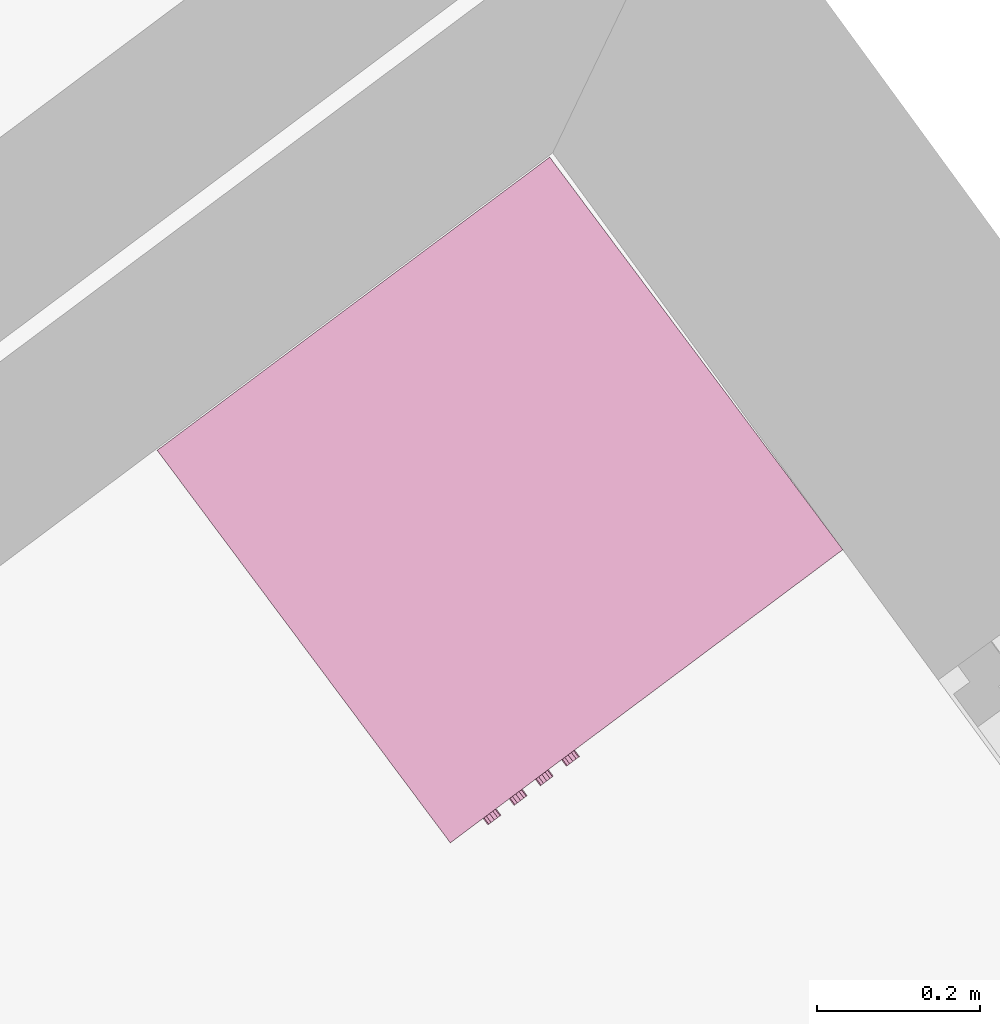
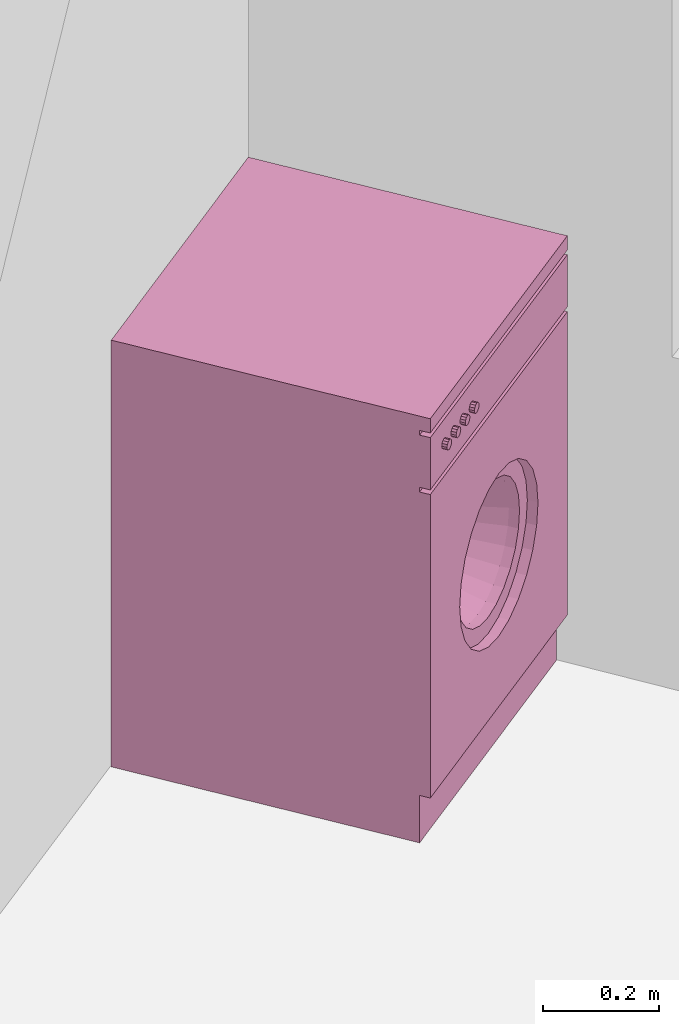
# One storey, part 152 of 195: 1 furnishing.
"""IFC2X3 building model written with IfcOpenShell, lengths in metres."""

from ifc_helpers import new_model, entity, si_unit, converted_unit, derived_unit, money_unit, direction, frame, origin_with_axes, place, context, subcontext, project, spatial, open_shell, faceted_brep, surface_model, source, transform, mapped, type_object, element, save


model = new_model("IFC2X3")

# Units and contexts
model_context = context("Model", 3, precision=1e-05, world=origin_with_axes(), true_north=direction((0.0, 1.0)))
body_context = subcontext(model_context, "Body", "Model", "MODEL_VIEW")
ifc_project = project(units=[si_unit("LENGTHUNIT", "METRE"), si_unit("AREAUNIT", "SQUARE_METRE"), si_unit("VOLUMEUNIT", "CUBIC_METRE"), converted_unit("PLANEANGLEUNIT", "DEGREE", entity("IfcPlaneAngleMeasure", 0.0174532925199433), si_unit("PLANEANGLEUNIT", "RADIAN"), dimensions=[0, 0, 0, 0, 0, 0, 0]), money_unit("CHF"), converted_unit("TIMEUNIT", "Year", entity("IfcTimeMeasure", 31557600.0), si_unit("TIMEUNIT", "SECOND"), dimensions=[0, 0, 1, 0, 0, 0, 0]), si_unit("MASSUNIT", "GRAM", prefix="KILO"), si_unit("THERMODYNAMICTEMPERATUREUNIT", "DEGREE_CELSIUS"), si_unit("LUMINOUSINTENSITYUNIT", "LUMEN"), si_unit("ENERGYUNIT", "JOULE", prefix="MEGA"), derived_unit("THERMALCONDUCTANCEUNIT", [(si_unit("POWERUNIT", "WATT"), 1), (si_unit("LENGTHUNIT", "METRE"), -1), (si_unit("THERMODYNAMICTEMPERATUREUNIT", "KELVIN"), -1)]), derived_unit("SPECIFICHEATCAPACITYUNIT", [(si_unit("ENERGYUNIT", "JOULE"), 1), (si_unit("MASSUNIT", "GRAM", prefix="KILO"), -1), (si_unit("THERMODYNAMICTEMPERATUREUNIT", "KELVIN"), -1)]), derived_unit("MASSDENSITYUNIT", [(si_unit("MASSUNIT", "GRAM", prefix="KILO"), 1), (si_unit("VOLUMEUNIT", "CUBIC_METRE"), -1)])], contexts=[model_context])

# Site, building, storey
site_placement = place(None, origin_with_axes())
site = spatial("IfcSite", under=ifc_project, at=site_placement, Name="Site", CompositionType="ELEMENT")
building_placement = place(site_placement, origin_with_axes())
building = spatial("IfcBuilding", under=site, at=building_placement, Name="Bâtiment", CompositionType="ELEMENT")
storey_placement = place(building_placement, origin_with_axes())
storey = spatial("IfcBuildingStorey", under=building, at=storey_placement, Name="rdc", CompositionType="ELEMENT", Elevation=0.0)

# Furnishing
furnishing_element_type = type_object("IfcFurnishingElementType", Name="Machine à laver")
shared_shape = source(origin_with_axes(), body_context, "Body", "SurfaceModel", [
    faceted_brep([(0.0, 0.02, 0.1), (0.6, 0.02, 0.1), (0.6, 0.0, 0.1), (0.0, 0.0, 0.1), (0.0, 0.02000000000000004, 0.74), (0.6, 0.02000000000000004, 0.74), (0.4714285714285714, 0.02000000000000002, 0.42), (0.4655872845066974, 0.02000000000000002, 0.4643689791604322), (0.448461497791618, 0.02000000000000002, 0.5057142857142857), (0.4212183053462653, 0.02000000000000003, 0.5412183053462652), (0.3857142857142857, 0.02000000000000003, 0.568461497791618), (0.3443689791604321, 0.02000000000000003, 0.5855872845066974), (0.3, 0.02000000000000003, 0.5914285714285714), (0.2556310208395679, 0.02000000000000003, 0.5855872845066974), (0.2142857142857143, 0.02000000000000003, 0.5684614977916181), (0.1787816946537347, 0.02000000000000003, 0.5412183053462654), (0.1515385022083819, 0.02000000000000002, 0.5057142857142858), (0.1344127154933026, 0.02000000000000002, 0.4643689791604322), (0.1285714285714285, 0.02000000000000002, 0.42), (0.1344127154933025, 0.02000000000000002, 0.3756310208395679), (0.1515385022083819, 0.02000000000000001, 0.3342857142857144), (0.1787816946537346, 0.02000000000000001, 0.2987816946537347), (0.2142857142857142, 0.02000000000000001, 0.2715385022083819), (0.2556310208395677, 0.02000000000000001, 0.2544127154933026), (0.2999999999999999, 0.02000000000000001, 0.2485714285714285), (0.344368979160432, 0.02000000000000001, 0.2544127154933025), (0.3857142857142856, 0.02000000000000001, 0.2715385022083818), (0.4212183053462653, 0.02000000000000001, 0.2987816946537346), (0.448461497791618, 0.02000000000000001, 0.3342857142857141), (0.4655872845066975, 0.02000000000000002, 0.3756310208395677), (0.6, 0.0, 0.74), (0.0, 0.0, 0.74), (0.4714285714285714, 0.0, 0.42), (0.4655872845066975, 0.0, 0.3756310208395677), (0.448461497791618, 0.0, 0.3342857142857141), (0.4212183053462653, 0.0, 0.2987816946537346), (0.3857142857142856, 0.0, 0.2715385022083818), (0.344368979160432, 0.0, 0.2544127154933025), (0.2999999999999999, 0.0, 0.2485714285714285), (0.2556310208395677, 0.0, 0.2544127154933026), (0.2142857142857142, 0.0, 0.2715385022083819), (0.1787816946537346, 0.0, 0.2987816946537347), (0.1515385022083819, 0.0, 0.3342857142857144), (0.1344127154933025, 0.0, 0.3756310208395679), (0.1285714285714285, 0.0, 0.42), (0.1344127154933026, 0.0, 0.4643689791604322), (0.1515385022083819, 0.0, 0.5057142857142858), (0.1787816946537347, 0.0, 0.5412183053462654), (0.2142857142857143, 0.0, 0.5684614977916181), (0.2556310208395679, 0.0, 0.5855872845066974), (0.3, 0.0, 0.5914285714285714), (0.3443689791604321, 0.0, 0.5855872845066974), (0.3857142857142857, 0.0, 0.568461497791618), (0.4212183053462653, 0.0, 0.5412183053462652), (0.448461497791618, 0.0, 0.5057142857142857), (0.4655872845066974, 0.0, 0.4643689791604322)], [[[0, 1, 2, 3]], [[0, 4, 5, 1], [6, 7, 8, 9, 10, 11, 12, 13, 14, 15, 16, 17, 18, 19, 20, 21, 22, 23, 24, 25, 26, 27, 28, 29]], [[1, 5, 30, 2]], [[3, 2, 30, 31], [32, 33, 34, 35, 36, 37, 38, 39, 40, 41, 42, 43, 44, 45, 46, 47, 48, 49, 50, 51, 52, 53, 54, 55]], [[4, 0, 3, 31]], [[5, 4, 31, 30]], [[7, 6, 32, 55]], [[8, 7, 55, 54]], [[9, 8, 54, 53]], [[10, 9, 53, 52]], [[11, 10, 52, 51]], [[12, 11, 51, 50]], [[13, 12, 50, 49]], [[14, 13, 49, 48]], [[15, 14, 48, 47]], [[16, 15, 47, 46]], [[17, 16, 46, 45]], [[18, 17, 45, 44]], [[19, 18, 44, 43]], [[20, 19, 43, 42]], [[21, 20, 42, 41]], [[22, 21, 41, 40]], [[23, 22, 40, 39]], [[24, 23, 39, 38]], [[25, 24, 38, 37]], [[26, 25, 37, 36]], [[27, 26, 36, 35]], [[28, 27, 35, 34]], [[29, 28, 34, 33]], [[6, 29, 33, 32]]]),
    faceted_brep([(0.4714285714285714, 0.04000000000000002, 0.42), (0.4655872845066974, 0.04000000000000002, 0.4643689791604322), (0.4655872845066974, 0.02000000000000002, 0.4643689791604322), (0.4714285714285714, 0.02000000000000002, 0.42), (0.4655872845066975, 0.04000000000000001, 0.3756310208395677), (0.448461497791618, 0.04000000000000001, 0.3342857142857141), (0.4212183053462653, 0.04000000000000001, 0.2987816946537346), (0.3857142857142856, 0.04000000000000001, 0.2715385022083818), (0.344368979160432, 0.04000000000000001, 0.2544127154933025), (0.2999999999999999, 0.04000000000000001, 0.2485714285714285), (0.2556310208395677, 0.04000000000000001, 0.2544127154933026), (0.2142857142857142, 0.04000000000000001, 0.2715385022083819), (0.1787816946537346, 0.04000000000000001, 0.2987816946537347), (0.1515385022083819, 0.04000000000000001, 0.3342857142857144), (0.1344127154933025, 0.04000000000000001, 0.3756310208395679), (0.1285714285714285, 0.04000000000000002, 0.42), (0.1344127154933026, 0.04000000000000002, 0.4643689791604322), (0.1515385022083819, 0.04000000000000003, 0.5057142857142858), (0.1787816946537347, 0.04000000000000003, 0.5412183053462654), (0.2142857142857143, 0.04000000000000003, 0.5684614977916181), (0.2556310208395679, 0.04000000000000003, 0.5855872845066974), (0.3, 0.04000000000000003, 0.5914285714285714), (0.3443689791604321, 0.04000000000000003, 0.5855872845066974), (0.3857142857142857, 0.04000000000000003, 0.568461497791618), (0.4212183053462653, 0.04000000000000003, 0.5412183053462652), (0.448461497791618, 0.04000000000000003, 0.5057142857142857), (0.4371428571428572, 0.04000000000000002, 0.42), (0.432469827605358, 0.04000000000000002, 0.4554951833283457), (0.4187691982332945, 0.04000000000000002, 0.4885714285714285), (0.3969746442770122, 0.04000000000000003, 0.5169746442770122), (0.3685714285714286, 0.04000000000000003, 0.5387691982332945), (0.3354951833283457, 0.04000000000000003, 0.552469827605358), (0.3, 0.04000000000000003, 0.5571428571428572), (0.2645048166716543, 0.04000000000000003, 0.552469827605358), (0.2314285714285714, 0.04000000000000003, 0.5387691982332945), (0.2030253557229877, 0.04000000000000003, 0.5169746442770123), (0.1812308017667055, 0.04000000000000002, 0.4885714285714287), (0.167530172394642, 0.04000000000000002, 0.4554951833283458), (0.1628571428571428, 0.04000000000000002, 0.42), (0.167530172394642, 0.04000000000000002, 0.3845048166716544), (0.1812308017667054, 0.04000000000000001, 0.3514285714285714), (0.2030253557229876, 0.04000000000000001, 0.3230253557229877), (0.2314285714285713, 0.04000000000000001, 0.3012308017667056), (0.2645048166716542, 0.04000000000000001, 0.287530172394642), (0.2999999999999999, 0.04000000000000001, 0.2828571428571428), (0.3354951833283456, 0.04000000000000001, 0.287530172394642), (0.3685714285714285, 0.04000000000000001, 0.3012308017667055), (0.3969746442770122, 0.04000000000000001, 0.3230253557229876), (0.4187691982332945, 0.04000000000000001, 0.3514285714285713), (0.432469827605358, 0.04000000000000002, 0.3845048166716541), (0.448461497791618, 0.02000000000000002, 0.5057142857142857), (0.4212183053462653, 0.02000000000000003, 0.5412183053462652), (0.3857142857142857, 0.02000000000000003, 0.568461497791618), (0.3443689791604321, 0.02000000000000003, 0.5855872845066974), (0.3, 0.02000000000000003, 0.5914285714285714), (0.2556310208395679, 0.02000000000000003, 0.5855872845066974), (0.2142857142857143, 0.02000000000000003, 0.5684614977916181), (0.1787816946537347, 0.02000000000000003, 0.5412183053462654), (0.1515385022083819, 0.02000000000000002, 0.5057142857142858), (0.1344127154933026, 0.02000000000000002, 0.4643689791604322), (0.1285714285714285, 0.02000000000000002, 0.42), (0.1344127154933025, 0.02000000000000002, 0.3756310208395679), (0.1515385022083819, 0.02000000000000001, 0.3342857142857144), (0.1787816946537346, 0.02000000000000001, 0.2987816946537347), (0.2142857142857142, 0.02000000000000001, 0.2715385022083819), (0.2556310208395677, 0.02000000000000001, 0.2544127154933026), (0.2999999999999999, 0.02000000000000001, 0.2485714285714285), (0.344368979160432, 0.02000000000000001, 0.2544127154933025), (0.3857142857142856, 0.02000000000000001, 0.2715385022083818), (0.4212183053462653, 0.02000000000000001, 0.2987816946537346), (0.448461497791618, 0.02000000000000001, 0.3342857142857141), (0.4655872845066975, 0.02000000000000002, 0.3756310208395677), (0.4371428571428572, 0.02000000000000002, 0.42), (0.432469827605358, 0.02000000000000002, 0.3845048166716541), (0.4187691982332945, 0.02000000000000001, 0.3514285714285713), (0.3969746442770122, 0.02000000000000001, 0.3230253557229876), (0.3685714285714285, 0.02000000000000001, 0.3012308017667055), (0.3354951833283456, 0.02000000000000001, 0.287530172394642), (0.2999999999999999, 0.02000000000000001, 0.2828571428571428), (0.2645048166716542, 0.02000000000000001, 0.287530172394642), (0.2314285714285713, 0.02000000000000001, 0.3012308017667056), (0.2030253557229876, 0.02000000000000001, 0.3230253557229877), (0.1812308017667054, 0.02000000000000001, 0.3514285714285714), (0.167530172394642, 0.02000000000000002, 0.3845048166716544), (0.1628571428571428, 0.02000000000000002, 0.42), (0.167530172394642, 0.02000000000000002, 0.4554951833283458), (0.1812308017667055, 0.02000000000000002, 0.4885714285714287), (0.2030253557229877, 0.02000000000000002, 0.5169746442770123), (0.2314285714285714, 0.02000000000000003, 0.5387691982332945), (0.2645048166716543, 0.02000000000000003, 0.552469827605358), (0.3, 0.02000000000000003, 0.5571428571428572), (0.3354951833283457, 0.02000000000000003, 0.552469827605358), (0.3685714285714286, 0.02000000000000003, 0.5387691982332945), (0.3969746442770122, 0.02000000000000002, 0.5169746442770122), (0.4187691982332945, 0.02000000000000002, 0.4885714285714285), (0.432469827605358, 0.02000000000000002, 0.4554951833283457)], [[[0, 1, 2, 3]], [[0, 4, 5, 6, 7, 8, 9, 10, 11, 12, 13, 14, 15, 16, 17, 18, 19, 20, 21, 22, 23, 24, 25, 1], [26, 27, 28, 29, 30, 31, 32, 33, 34, 35, 36, 37, 38, 39, 40, 41, 42, 43, 44, 45, 46, 47, 48, 49]], [[1, 25, 50, 2]], [[3, 2, 50, 51, 52, 53, 54, 55, 56, 57, 58, 59, 60, 61, 62, 63, 64, 65, 66, 67, 68, 69, 70, 71], [72, 73, 74, 75, 76, 77, 78, 79, 80, 81, 82, 83, 84, 85, 86, 87, 88, 89, 90, 91, 92, 93, 94, 95]], [[4, 0, 3, 71]], [[5, 4, 71, 70]], [[6, 5, 70, 69]], [[7, 6, 69, 68]], [[8, 7, 68, 67]], [[9, 8, 67, 66]], [[10, 9, 66, 65]], [[11, 10, 65, 64]], [[12, 11, 64, 63]], [[13, 12, 63, 62]], [[14, 13, 62, 61]], [[15, 14, 61, 60]], [[16, 15, 60, 59]], [[17, 16, 59, 58]], [[18, 17, 58, 57]], [[19, 18, 57, 56]], [[20, 19, 56, 55]], [[21, 20, 55, 54]], [[22, 21, 54, 53]], [[23, 22, 53, 52]], [[24, 23, 52, 51]], [[25, 24, 51, 50]], [[27, 26, 72, 95]], [[28, 27, 95, 94]], [[29, 28, 94, 93]], [[30, 29, 93, 92]], [[31, 30, 92, 91]], [[32, 31, 91, 90]], [[33, 32, 90, 89]], [[34, 33, 89, 88]], [[35, 34, 88, 87]], [[36, 35, 87, 86]], [[37, 36, 86, 85]], [[38, 37, 85, 84]], [[39, 38, 84, 83]], [[40, 39, 83, 82]], [[41, 40, 82, 81]], [[42, 41, 81, 80]], [[43, 42, 80, 79]], [[44, 43, 79, 78]], [[45, 44, 78, 77]], [[46, 45, 77, 76]], [[47, 46, 76, 75]], [[48, 47, 75, 74]], [[49, 48, 74, 73]], [[26, 49, 73, 72]]]),
    surface_model("IfcShellBasedSurfaceModel", [(0.2645048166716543, 0.03999999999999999, 0.552469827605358), (0.3, 0.03999999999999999, 0.5571428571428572), (0.3, 0.14, 0.5228571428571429), (0.2733786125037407, 0.14, 0.5193523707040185), (0.3354951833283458, 0.03999999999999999, 0.552469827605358), (0.3266213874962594, 0.14, 0.5193523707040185), (0.3514285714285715, 0.14, 0.5090768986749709), (0.3727309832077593, 0.14, 0.4927309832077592), (0.3890768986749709, 0.14, 0.4714285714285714), (0.3993523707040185, 0.14, 0.4466213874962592), (0.4028571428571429, 0.14, 0.42), (0.3993523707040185, 0.14, 0.3933786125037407), (0.3890768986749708, 0.14, 0.3685714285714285), (0.3727309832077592, 0.14, 0.3472690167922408), (0.3514285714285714, 0.14, 0.3309231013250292), (0.3266213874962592, 0.14, 0.3206476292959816), (0.2999999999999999, 0.14, 0.3171428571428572), (0.2733786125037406, 0.14, 0.3206476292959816), (0.2485714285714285, 0.14, 0.3309231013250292), (0.2272690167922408, 0.14, 0.3472690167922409), (0.2109231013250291, 0.14, 0.3685714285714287), (0.2006476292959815, 0.14, 0.3933786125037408), (0.1971428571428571, 0.14, 0.4200000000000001), (0.2006476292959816, 0.14, 0.4466213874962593), (0.2109231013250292, 0.14, 0.4714285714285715), (0.2272690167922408, 0.14, 0.4927309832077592), (0.2485714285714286, 0.14, 0.5090768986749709), (0.2314285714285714, 0.03999999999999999, 0.5387691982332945), (0.3685714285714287, 0.03999999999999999, 0.5387691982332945), (0.3969746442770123, 0.03999999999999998, 0.5169746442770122), (0.4187691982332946, 0.03999999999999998, 0.4885714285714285), (0.432469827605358, 0.03999999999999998, 0.4554951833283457), (0.4371428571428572, 0.03999999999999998, 0.4199999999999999), (0.432469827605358, 0.03999999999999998, 0.3845048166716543), (0.4187691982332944, 0.03999999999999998, 0.3514285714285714), (0.3969746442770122, 0.03999999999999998, 0.3230253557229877), (0.3685714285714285, 0.03999999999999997, 0.3012308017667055), (0.3354951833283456, 0.03999999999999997, 0.2875301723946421), (0.2999999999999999, 0.03999999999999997, 0.2828571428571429), (0.2645048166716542, 0.03999999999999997, 0.2875301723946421), (0.2314285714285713, 0.03999999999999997, 0.3012308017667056), (0.2030253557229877, 0.03999999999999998, 0.3230253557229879), (0.1812308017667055, 0.03999999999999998, 0.3514285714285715), (0.167530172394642, 0.03999999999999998, 0.3845048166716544), (0.1628571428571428, 0.03999999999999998, 0.4200000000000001), (0.167530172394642, 0.03999999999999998, 0.4554951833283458), (0.1812308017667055, 0.03999999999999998, 0.4885714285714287), (0.2030253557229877, 0.03999999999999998, 0.5169746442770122)], [open_shell([[[0, 1, 2, 3]], [[1, 4, 5, 2]], [[2, 5, 6, 7, 8, 9, 10, 11, 12, 13, 14, 15, 16, 17, 18, 19, 20, 21, 22, 23, 24, 25, 26, 3]], [[27, 0, 3, 26]], [[4, 28, 6, 5]], [[28, 29, 7, 6]], [[29, 30, 8, 7]], [[30, 31, 9, 8]], [[31, 32, 10, 9]], [[32, 33, 11, 10]], [[33, 34, 12, 11]], [[34, 35, 13, 12]], [[35, 36, 14, 13]], [[36, 37, 15, 14]], [[37, 38, 16, 15]], [[38, 39, 17, 16]], [[39, 40, 18, 17]], [[40, 41, 19, 18]], [[41, 42, 20, 19]], [[42, 43, 21, 20]], [[43, 44, 22, 21]], [[44, 45, 23, 22]], [[45, 46, 24, 23]], [[46, 47, 25, 24]], [[47, 27, 26, 25]]])]),
    surface_model("IfcShellBasedSurfaceModel", [(0.0, 0.02, 0.1), (0.0, 0.02000000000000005, 0.87), (0.0, 0.6, 0.87), (0.0, 0.6, 0.09999999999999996)], [open_shell([[[0, 1, 2, 3]]])]),
    surface_model("IfcShellBasedSurfaceModel", [(0.6, 0.01999999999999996, 0.1), (0.6, 0.02000000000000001, 0.87), (0.6, 0.5999999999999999, 0.87), (0.6, 0.5999999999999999, 0.09999999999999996)], [open_shell([[[0, 1, 2, 3]]])]),
    surface_model("IfcShellBasedSurfaceModel", [(0.0, 0.6, 0.1), (0.0, 0.6, 0.87), (0.6, 0.6, 0.87), (0.6, 0.6, 0.1)], [open_shell([[[0, 1, 2, 3]]])]),
    faceted_brep([(0.0, 0.02, 0.0), (0.6, 0.02, 0.0), (0.6, 0.02, 0.1), (0.0, 0.02, 0.1), (0.0, 0.6, 0.0), (0.6, 0.6, 0.0), (0.6, 0.6, 0.1), (0.0, 0.6, 0.1)], [[[0, 1, 2, 3]], [[0, 4, 5, 1]], [[1, 5, 6, 2]], [[3, 2, 6, 7]], [[4, 0, 3, 7]], [[5, 4, 7, 6]]]),
    faceted_brep([(0.0, 0.02, 0.75), (0.6, 0.02, 0.75), (0.6, 0.0, 0.75), (0.0, 0.0, 0.75), (0.0, 0.02000000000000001, 0.86), (0.6, 0.02000000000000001, 0.86), (0.6, 0.0, 0.86), (0.0, 0.0, 0.86)], [[[0, 1, 2, 3]], [[0, 4, 5, 1]], [[1, 5, 6, 2]], [[3, 2, 6, 7]], [[4, 0, 3, 7]], [[5, 4, 7, 6]]]),
    surface_model("IfcShellBasedSurfaceModel", [(0.0, 0.02, 0.74), (0.0, 0.02000000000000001, 0.87), (0.6, 0.02000000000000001, 0.87), (0.6, 0.02, 0.74)], [open_shell([[[0, 1, 2, 3]]])]),
    faceted_brep([(0.0, 0.0, 0.87), (0.6, 0.0, 0.87), (0.6, 0.0, 0.9), (0.0, 0.0, 0.9), (0.0, 0.6, 0.87), (0.6, 0.6, 0.87), (0.6, 0.6, 0.9), (0.0, 0.6, 0.9)], [[[0, 1, 2, 3]], [[0, 4, 5, 1]], [[1, 5, 6, 2]], [[3, 2, 6, 7]], [[4, 0, 3, 7]], [[5, 4, 7, 6]]]),
    faceted_brep([(0.06866025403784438, 0.0, 0.8049999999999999), (0.06499999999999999, 0.0, 0.8013397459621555), (0.05999999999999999, 0.0, 0.7999999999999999), (0.05499999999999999, 0.0, 0.8013397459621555), (0.05133974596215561, 0.0, 0.8049999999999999), (0.05, 0.0, 0.8099999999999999), (0.05133974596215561, 0.0, 0.815), (0.055, 0.0, 0.8186602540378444), (0.06, 0.0, 0.82), (0.065, 0.0, 0.8186602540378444), (0.06866025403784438, 0.0, 0.815), (0.06999999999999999, 0.0, 0.8099999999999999), (0.06866025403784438, -0.01, 0.8049999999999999), (0.06499999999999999, -0.01, 0.8013397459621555), (0.05999999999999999, -0.01, 0.7999999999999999), (0.05499999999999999, -0.01, 0.8013397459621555), (0.05133974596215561, -0.01, 0.8049999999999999), (0.05, -0.01, 0.8099999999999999), (0.05133974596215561, -0.01, 0.815), (0.055, -0.01, 0.8186602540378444), (0.06, -0.01, 0.82), (0.065, -0.01, 0.8186602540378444), (0.06866025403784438, -0.01, 0.815), (0.06999999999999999, -0.01, 0.8099999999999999)], [[[0, 1, 2, 3, 4, 5, 6, 7, 8, 9, 10, 11]], [[1, 0, 12, 13]], [[2, 1, 13, 14]], [[3, 2, 14, 15]], [[4, 3, 15, 16]], [[5, 4, 16, 17]], [[6, 5, 17, 18]], [[7, 6, 18, 19]], [[8, 7, 19, 20]], [[9, 8, 20, 21]], [[10, 9, 21, 22]], [[11, 10, 22, 23]], [[0, 11, 23, 12]], [[12, 23, 22, 21, 20, 19, 18, 17, 16, 15, 14, 13]]]),
    faceted_brep([(0.1086602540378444, 0.0, 0.8049999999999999), (0.105, 0.0, 0.8013397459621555), (0.09999999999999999, 0.0, 0.7999999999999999), (0.095, 0.0, 0.8013397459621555), (0.09133974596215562, 0.0, 0.8049999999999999), (0.09000000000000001, 0.0, 0.8099999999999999), (0.09133974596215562, 0.0, 0.815), (0.095, 0.0, 0.8186602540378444), (0.1, 0.0, 0.82), (0.105, 0.0, 0.8186602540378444), (0.1086602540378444, 0.0, 0.815), (0.11, 0.0, 0.8099999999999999), (0.1086602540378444, -0.01, 0.8049999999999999), (0.105, -0.01, 0.8013397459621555), (0.09999999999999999, -0.01, 0.7999999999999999), (0.095, -0.01, 0.8013397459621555), (0.09133974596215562, -0.01, 0.8049999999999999), (0.09000000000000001, -0.01, 0.8099999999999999), (0.09133974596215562, -0.01, 0.815), (0.095, -0.01, 0.8186602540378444), (0.1, -0.01, 0.82), (0.105, -0.01, 0.8186602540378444), (0.1086602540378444, -0.01, 0.815), (0.11, -0.01, 0.8099999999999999)], [[[0, 1, 2, 3, 4, 5, 6, 7, 8, 9, 10, 11]], [[1, 0, 12, 13]], [[2, 1, 13, 14]], [[3, 2, 14, 15]], [[4, 3, 15, 16]], [[5, 4, 16, 17]], [[6, 5, 17, 18]], [[7, 6, 18, 19]], [[8, 7, 19, 20]], [[9, 8, 20, 21]], [[10, 9, 21, 22]], [[11, 10, 22, 23]], [[0, 11, 23, 12]], [[12, 23, 22, 21, 20, 19, 18, 17, 16, 15, 14, 13]]]),
    faceted_brep([(0.1486602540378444, 0.0, 0.8049999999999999), (0.145, 0.0, 0.8013397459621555), (0.14, 0.0, 0.7999999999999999), (0.135, 0.0, 0.8013397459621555), (0.1313397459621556, 0.0, 0.8049999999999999), (0.13, 0.0, 0.8099999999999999), (0.1313397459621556, 0.0, 0.815), (0.135, 0.0, 0.8186602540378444), (0.14, 0.0, 0.82), (0.145, 0.0, 0.8186602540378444), (0.1486602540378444, 0.0, 0.815), (0.15, 0.0, 0.8099999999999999), (0.1486602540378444, -0.01, 0.8049999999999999), (0.145, -0.01, 0.8013397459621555), (0.14, -0.01, 0.7999999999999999), (0.135, -0.01, 0.8013397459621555), (0.1313397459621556, -0.01, 0.8049999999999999), (0.13, -0.01, 0.8099999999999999), (0.1313397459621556, -0.01, 0.815), (0.135, -0.01, 0.8186602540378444), (0.14, -0.01, 0.82), (0.145, -0.01, 0.8186602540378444), (0.1486602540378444, -0.01, 0.815), (0.15, -0.01, 0.8099999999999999)], [[[0, 1, 2, 3, 4, 5, 6, 7, 8, 9, 10, 11]], [[1, 0, 12, 13]], [[2, 1, 13, 14]], [[3, 2, 14, 15]], [[4, 3, 15, 16]], [[5, 4, 16, 17]], [[6, 5, 17, 18]], [[7, 6, 18, 19]], [[8, 7, 19, 20]], [[9, 8, 20, 21]], [[10, 9, 21, 22]], [[11, 10, 22, 23]], [[0, 11, 23, 12]], [[12, 23, 22, 21, 20, 19, 18, 17, 16, 15, 14, 13]]]),
    faceted_brep([(0.1886602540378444, 0.0, 0.8049999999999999), (0.185, 0.0, 0.8013397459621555), (0.18, 0.0, 0.7999999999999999), (0.175, 0.0, 0.8013397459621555), (0.1713397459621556, 0.0, 0.8049999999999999), (0.17, 0.0, 0.8099999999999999), (0.1713397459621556, 0.0, 0.815), (0.175, 0.0, 0.8186602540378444), (0.18, 0.0, 0.82), (0.185, 0.0, 0.8186602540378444), (0.1886602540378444, 0.0, 0.815), (0.19, 0.0, 0.8099999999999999), (0.1886602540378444, -0.01, 0.8049999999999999), (0.185, -0.01, 0.8013397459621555), (0.18, -0.01, 0.7999999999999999), (0.175, -0.01, 0.8013397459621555), (0.1713397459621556, -0.01, 0.8049999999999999), (0.17, -0.01, 0.8099999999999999), (0.1713397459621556, -0.01, 0.815), (0.175, -0.01, 0.8186602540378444), (0.18, -0.01, 0.82), (0.185, -0.01, 0.8186602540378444), (0.1886602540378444, -0.01, 0.815), (0.19, -0.01, 0.8099999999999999)], [[[0, 1, 2, 3, 4, 5, 6, 7, 8, 9, 10, 11]], [[1, 0, 12, 13]], [[2, 1, 13, 14]], [[3, 2, 14, 15]], [[4, 3, 15, 16]], [[5, 4, 16, 17]], [[6, 5, 17, 18]], [[7, 6, 18, 19]], [[8, 7, 19, 20]], [[9, 8, 20, 21]], [[10, 9, 21, 22]], [[11, 10, 22, 23]], [[0, 11, 23, 12]], [[12, 23, 22, 21, 20, 19, 18, 17, 16, 15, 14, 13]]]),
])
furnishing_placement = place(storey_placement, frame((9537.196808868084, -1070.958875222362, 57.7), z_axis=(0.0, 0.0, 1.0), x_axis=(0.8012033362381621, 0.5983921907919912, 0.0)))
element("IfcFurnishingElement", 1, at=furnishing_placement, inside=storey, type_object=furnishing_element_type, Name="Obj.-019", context=body_context, shape_type="MappedRepresentation", body=[
    mapped(shared_shape, transform((0.0, 0.0, 0.0))),
])

save(model, "model.ifc")
